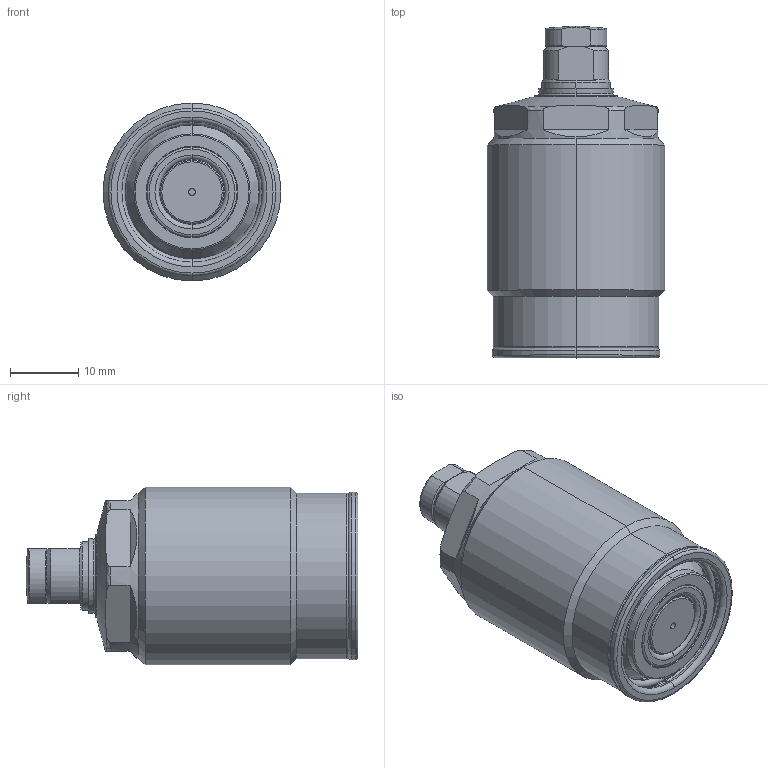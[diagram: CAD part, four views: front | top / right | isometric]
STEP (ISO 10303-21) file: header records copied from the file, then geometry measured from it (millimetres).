
FILE_DESCRIPTION(/* description */ (''),/* implementation_level */ '2;1');
FILE_NAME(/* name */ 'TSC26-S.stp',/* time_stamp */ '2024-11-02T14:33:30+08:00',/* author */ (''),/* organization */ (''),/* preprocessor_version */ 'ST-DEVELOPER v16.7',/* originating_system */ 'SIEMENS PLM Software NX 12.0',/* authorisation */ '');
FILE_SCHEMA (('AP203_CONFIGURATION_CONTROLLED_3D_DESIGN_OF_MECHANICAL_PARTS_AND_ASSEMBLIES_MIM_LF { 1 0 10303 403 2 1 2}'));
Length unit declared in the file: millimetre
Products named in the file (7): XLD-M6_Oring3902; XLD-M6_contactbolt18; TSC26-S-03; TSC26-S-02; TSC26-S-01; TSC26-S-04; LD0263-x-S_step
Assembly tree (6 placements, depth 3):
  LD0263-x-S_step
    TSC26-S-01
    TSC26-S-02
    TSC26-S-03
    TSC26-S-04
      XLD-M6_contactbolt18
      XLD-M6_Oring3902
Bounding box: 26 x 48.5 x 26 mm (x, y, z)
Volume: 18956.4 mm3; surface area: 6107.8 mm2
Topology: 5 solids, 5 shells, 177 faces, 384 edges, 227 vertices
Faces by surface type: torus 64, cylinder 44, plane 37, cone 30, sphere 2
Entity records: 5966 total; most frequent: CARTESIAN_POINT 1215, DIRECTION 948, ORIENTED_EDGE 768, AXIS2_PLACEMENT_3D 424, EDGE_CURVE 384, CIRCLE 240, VERTEX_POINT 227, EDGE_LOOP 191
